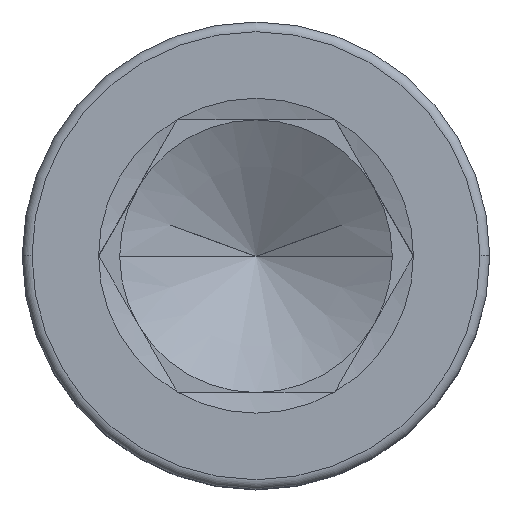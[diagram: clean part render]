
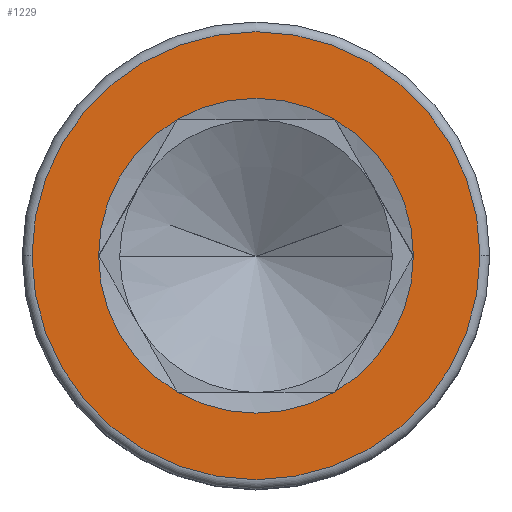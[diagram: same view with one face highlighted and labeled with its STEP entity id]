
A CAD part, top view. The second image highlights one B-rep face of the part: STEP entity #1229.
In plain terms, the highlighted planar face has unit normal (0, 0, 1).
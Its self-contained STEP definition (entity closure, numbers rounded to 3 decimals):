
#58 = CARTESIAN_POINT ( 'NONE',  ( 0., 0., 16. ) ) ;
#78 = DIRECTION ( 'NONE',  ( 0., 0., 1. ) ) ;
#82 = ORIENTED_EDGE ( 'NONE', *, *, #830, .T. ) ;
#101 = DIRECTION ( 'NONE',  ( 1., 0., 0. ) ) ;
#124 = ORIENTED_EDGE ( 'NONE', *, *, #1966, .F. ) ;
#134 = DIRECTION ( 'NONE',  ( 1., 0., 0. ) ) ;
#148 = CIRCLE ( 'NONE', #1271, 8.083 ) ;
#153 = CARTESIAN_POINT ( 'NONE',  ( 4.041, -7., 16. ) ) ;
#214 = CIRCLE ( 'NONE', #312, 8.083 ) ;
#222 = ORIENTED_EDGE ( 'NONE', *, *, #1242, .F. ) ;
#268 = EDGE_CURVE ( 'NONE', #1913, #594, #1727, .T. ) ;
#273 = AXIS2_PLACEMENT_3D ( 'NONE', #1720, #1860, #480 ) ;
#312 = AXIS2_PLACEMENT_3D ( 'NONE', #1760, #78, #1927 ) ;
#354 = ORIENTED_EDGE ( 'NONE', *, *, #1525, .F. ) ;
#372 = CARTESIAN_POINT ( 'NONE',  ( 8.083, 0., 16. ) ) ;
#405 = CIRCLE ( 'NONE', #1782, 11.5 ) ;
#459 = ORIENTED_EDGE ( 'NONE', *, *, #905, .T. ) ;
#480 = DIRECTION ( 'NONE',  ( 1., 0., 0. ) ) ;
#517 = VERTEX_POINT ( 'NONE', #1781 ) ;
#577 = CARTESIAN_POINT ( 'NONE',  ( 0., 0., 16. ) ) ;
#579 = CARTESIAN_POINT ( 'NONE',  ( 0., 0., 16. ) ) ;
#594 = VERTEX_POINT ( 'NONE', #1963 ) ;
#636 = DIRECTION ( 'NONE',  ( 1., 0., 0. ) ) ;
#645 = ORIENTED_EDGE ( 'NONE', *, *, #1681, .F. ) ;
#687 = VERTEX_POINT ( 'NONE', #153 ) ;
#727 = PLANE ( 'NONE',  #1984 ) ;
#737 = AXIS2_PLACEMENT_3D ( 'NONE', #897, #1210, #134 ) ;
#748 = FACE_BOUND ( 'NONE', #1057, .T. ) ;
#762 = CIRCLE ( 'NONE', #1205, 8.083 ) ;
#771 = VERTEX_POINT ( 'NONE', #1349 ) ;
#791 = CIRCLE ( 'NONE', #1104, 8.083 ) ;
#830 = EDGE_CURVE ( 'NONE', #517, #966, #405, .T. ) ;
#870 = CARTESIAN_POINT ( 'NONE',  ( 0., 0., 16. ) ) ;
#893 = AXIS2_PLACEMENT_3D ( 'NONE', #58, #1902, #1912 ) ;
#897 = CARTESIAN_POINT ( 'NONE',  ( 0., 0., 16. ) ) ;
#905 = EDGE_CURVE ( 'NONE', #966, #517, #1300, .T. ) ;
#966 = VERTEX_POINT ( 'NONE', #1753 ) ;
#995 = DIRECTION ( 'NONE',  ( 1., 0., 0. ) ) ;
#1033 = CARTESIAN_POINT ( 'NONE',  ( 0., 0., 16. ) ) ;
#1057 = EDGE_LOOP ( 'NONE', ( #1908, #354, #645, #222, #124, #1154 ) ) ;
#1085 = DIRECTION ( 'NONE',  ( 1., 0., 0. ) ) ;
#1104 = AXIS2_PLACEMENT_3D ( 'NONE', #1033, #1651, #636 ) ;
#1142 = DIRECTION ( 'NONE',  ( 0., 0., 1. ) ) ;
#1154 = ORIENTED_EDGE ( 'NONE', *, *, #1486, .F. ) ;
#1183 = DIRECTION ( 'NONE',  ( 0., 0., 1. ) ) ;
#1205 = AXIS2_PLACEMENT_3D ( 'NONE', #1915, #1142, #995 ) ;
#1210 = DIRECTION ( 'NONE',  ( 0., 0., 1. ) ) ;
#1229 = ADVANCED_FACE ( 'NONE', ( #1843, #748 ), #727, .T. ) ;
#1242 = EDGE_CURVE ( 'NONE', #1886, #771, #791, .T. ) ;
#1271 = AXIS2_PLACEMENT_3D ( 'NONE', #870, #1477, #101 ) ;
#1300 = CIRCLE ( 'NONE', #273, 11.5 ) ;
#1349 = CARTESIAN_POINT ( 'NONE',  ( -4.041, -7., 16. ) ) ;
#1410 = CARTESIAN_POINT ( 'NONE',  ( -4.041, 7., 16. ) ) ;
#1420 = EDGE_LOOP ( 'NONE', ( #459, #82 ) ) ;
#1477 = DIRECTION ( 'NONE',  ( 0., 0., 1. ) ) ;
#1486 = EDGE_CURVE ( 'NONE', #594, #1858, #214, .T. ) ;
#1525 = EDGE_CURVE ( 'NONE', #687, #1913, #762, .T. ) ;
#1571 = DIRECTION ( 'NONE',  ( 0., 0., 1. ) ) ;
#1582 = CARTESIAN_POINT ( 'NONE',  ( -8.083, 0., 16. ) ) ;
#1651 = DIRECTION ( 'NONE',  ( 0., 0., 1. ) ) ;
#1681 = EDGE_CURVE ( 'NONE', #771, #687, #148, .T. ) ;
#1720 = CARTESIAN_POINT ( 'NONE',  ( 0., 0., 16. ) ) ;
#1727 = CIRCLE ( 'NONE', #737, 8.083 ) ;
#1753 = CARTESIAN_POINT ( 'NONE',  ( 11.5, 0., 16. ) ) ;
#1758 = CIRCLE ( 'NONE', #893, 8.083 ) ;
#1760 = CARTESIAN_POINT ( 'NONE',  ( 0., 0., 16. ) ) ;
#1781 = CARTESIAN_POINT ( 'NONE',  ( -11.5, 0., 16. ) ) ;
#1782 = AXIS2_PLACEMENT_3D ( 'NONE', #579, #1571, #1085 ) ;
#1801 = DIRECTION ( 'NONE',  ( 1., 0., 0. ) ) ;
#1843 = FACE_OUTER_BOUND ( 'NONE', #1420, .T. ) ;
#1858 = VERTEX_POINT ( 'NONE', #1410 ) ;
#1860 = DIRECTION ( 'NONE',  ( 0., 0., 1. ) ) ;
#1886 = VERTEX_POINT ( 'NONE', #1582 ) ;
#1902 = DIRECTION ( 'NONE',  ( 0., 0., 1. ) ) ;
#1908 = ORIENTED_EDGE ( 'NONE', *, *, #268, .F. ) ;
#1912 = DIRECTION ( 'NONE',  ( 1., 0., 0. ) ) ;
#1913 = VERTEX_POINT ( 'NONE', #372 ) ;
#1915 = CARTESIAN_POINT ( 'NONE',  ( 0., 0., 16. ) ) ;
#1927 = DIRECTION ( 'NONE',  ( 1., 0., 0. ) ) ;
#1963 = CARTESIAN_POINT ( 'NONE',  ( 4.041, 7., 16. ) ) ;
#1966 = EDGE_CURVE ( 'NONE', #1858, #1886, #1758, .T. ) ;
#1984 = AXIS2_PLACEMENT_3D ( 'NONE', #577, #1183, #1801 ) ;
